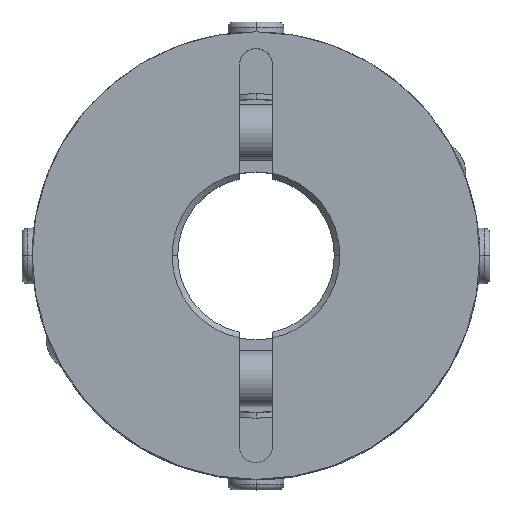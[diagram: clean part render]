
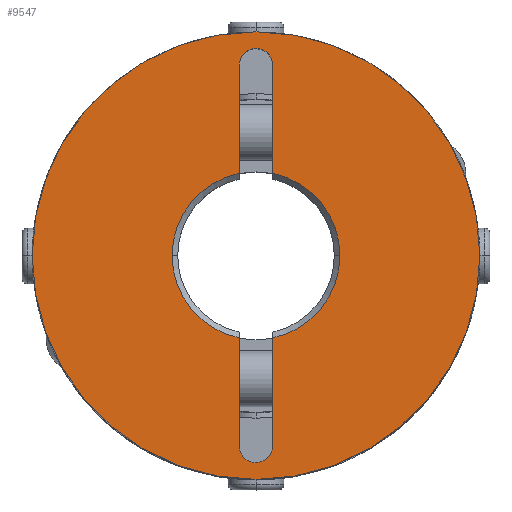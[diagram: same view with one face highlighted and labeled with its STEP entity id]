
A CAD part, top view. The second image highlights one B-rep face of the part: STEP entity #9547.
In plain terms, the highlighted planar face has unit normal (0, 0, 1).
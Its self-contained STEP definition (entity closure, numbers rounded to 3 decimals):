
#829=CARTESIAN_POINT('',(-20.0,0.,20.0));
#830=VERTEX_POINT('',#829);
#837=CARTESIAN_POINT('',(20.0,0.0,20.0));
#838=VERTEX_POINT('',#837);
#839=CARTESIAN_POINT('',(0.0,0.0,20.0));
#840=DIRECTION('',(0.0,0.0,-1.0));
#841=DIRECTION('',(1.0,0.0,0.0));
#842=AXIS2_PLACEMENT_3D('',#839,#840,#841);
#843=CIRCLE('',#842,20.0);
#844=EDGE_CURVE('',#830,#838,#843,.T.);
#1155=CARTESIAN_POINT('',(-1.061,18.061,20.0));
#1156=VERTEX_POINT('',#1155);
#1172=CARTESIAN_POINT('',(1.5,17.,20.0));
#1173=VERTEX_POINT('',#1172);
#1180=CARTESIAN_POINT('',(0.,17.,20.0));
#1181=DIRECTION('',(0.0,0.0,1.));
#1182=DIRECTION('',(0.707,0.707,0.0));
#1183=AXIS2_PLACEMENT_3D('',#1180,#1181,#1182);
#1184=CIRCLE('',#1183,1.5);
#1185=EDGE_CURVE('',#1173,#1156,#1184,.T.);
#1197=CARTESIAN_POINT('',(1.061,-18.061,20.0));
#1198=VERTEX_POINT('',#1197);
#1214=CARTESIAN_POINT('',(-1.5,-17.,20.0));
#1215=VERTEX_POINT('',#1214);
#1222=CARTESIAN_POINT('',(0.0,-17.,20.0));
#1223=DIRECTION('',(0.0,0.0,1.0));
#1224=DIRECTION('',(-0.707,-0.707,0.0));
#1225=AXIS2_PLACEMENT_3D('',#1222,#1223,#1224);
#1226=CIRCLE('',#1225,1.5);
#1227=EDGE_CURVE('',#1215,#1198,#1226,.T.);
#1237=CARTESIAN_POINT('',(-7.5,0.,20.0));
#1238=VERTEX_POINT('',#1237);
#1245=CARTESIAN_POINT('',(-1.5,-7.348,20.0));
#1246=VERTEX_POINT('',#1245);
#1247=CARTESIAN_POINT('',(0.0,0.0,20.0));
#1248=DIRECTION('',(0.0,0.0,1.0));
#1249=DIRECTION('',(-1.0,0.0,0.0));
#1250=AXIS2_PLACEMENT_3D('',#1247,#1248,#1249);
#1251=CIRCLE('',#1250,7.5);
#1252=EDGE_CURVE('',#1238,#1246,#1251,.T.);
#1276=CARTESIAN_POINT('',(7.5,0.,20.0));
#1277=VERTEX_POINT('',#1276);
#1284=CARTESIAN_POINT('',(1.5,7.348,20.0));
#1285=VERTEX_POINT('',#1284);
#1286=CARTESIAN_POINT('',(0.0,0.0,20.0));
#1287=DIRECTION('',(0.0,0.0,1.0));
#1288=DIRECTION('',(1.0,0.0,0.0));
#1289=AXIS2_PLACEMENT_3D('',#1286,#1287,#1288);
#1290=CIRCLE('',#1289,7.5);
#1291=EDGE_CURVE('',#1277,#1285,#1290,.T.);
#9352=CARTESIAN_POINT('',(-1.5,17.,20.0));
#9353=VERTEX_POINT('',#9352);
#9360=CARTESIAN_POINT('',(-1.5,7.348,20.0));
#9361=VERTEX_POINT('',#9360);
#9362=CARTESIAN_POINT('',(-1.5,7.348,20.0));
#9363=DIRECTION('',(0.0,1.0,0.0));
#9364=VECTOR('',#9363,9.652);
#9365=LINE('',#9362,#9364);
#9366=EDGE_CURVE('',#9361,#9353,#9365,.T.);
#9441=CARTESIAN_POINT('',(1.5,17.,20.0));
#9442=DIRECTION('',(0.0,-1.0,0.0));
#9443=VECTOR('',#9442,9.652);
#9444=LINE('',#9441,#9443);
#9445=EDGE_CURVE('',#1173,#1285,#9444,.T.);
#9463=CARTESIAN_POINT('',(1.5,-7.348,20.0));
#9464=VERTEX_POINT('',#9463);
#9478=CARTESIAN_POINT('',(0.0,0.0,20.0));
#9479=DIRECTION('',(0.0,0.0,1.0));
#9480=DIRECTION('',(1.0,0.0,0.0));
#9481=AXIS2_PLACEMENT_3D('',#9478,#9479,#9480);
#9482=CIRCLE('',#9481,7.5);
#9483=EDGE_CURVE('',#9464,#1277,#9482,.T.);
#9488=CARTESIAN_POINT('',(1.818,0.,20.0));
#9489=DIRECTION('',(0.0,0.0,1.0));
#9490=DIRECTION('',(1.0,0.0,0.0));
#9491=AXIS2_PLACEMENT_3D('',#9488,#9489,#9490);
#9492=PLANE('',#9491);
#9493=CARTESIAN_POINT('',(0.0,0.0,20.0));
#9494=DIRECTION('',(0.0,0.0,-1.0));
#9495=DIRECTION('',(1.0,0.0,0.0));
#9496=AXIS2_PLACEMENT_3D('',#9493,#9494,#9495);
#9497=CIRCLE('',#9496,20.0);
#9498=EDGE_CURVE('',#838,#830,#9497,.T.);
#9499=ORIENTED_EDGE('',*,*,#9498,.F.);
#9500=ORIENTED_EDGE('',*,*,#844,.F.);
#9501=EDGE_LOOP('',(#9499,#9500));
#9502=FACE_OUTER_BOUND('',#9501,.T.);
#9503=ORIENTED_EDGE('',*,*,#9483,.F.);
#9504=CARTESIAN_POINT('',(1.5,-17.,20.0));
#9505=VERTEX_POINT('',#9504);
#9506=CARTESIAN_POINT('',(1.5,-7.348,20.0));
#9507=DIRECTION('',(0.0,-1.0,0.0));
#9508=VECTOR('',#9507,9.652);
#9509=LINE('',#9506,#9508);
#9510=EDGE_CURVE('',#9464,#9505,#9509,.T.);
#9511=ORIENTED_EDGE('',*,*,#9510,.T.);
#9512=CARTESIAN_POINT('',(0.0,-17.,20.0));
#9513=DIRECTION('',(0.0,0.0,1.0));
#9514=DIRECTION('',(-0.707,-0.707,0.0));
#9515=AXIS2_PLACEMENT_3D('',#9512,#9513,#9514);
#9516=CIRCLE('',#9515,1.5);
#9517=EDGE_CURVE('',#1198,#9505,#9516,.T.);
#9518=ORIENTED_EDGE('',*,*,#9517,.F.);
#9519=ORIENTED_EDGE('',*,*,#1227,.F.);
#9520=CARTESIAN_POINT('',(-1.5,-17.,20.0));
#9521=DIRECTION('',(0.0,1.0,0.0));
#9522=VECTOR('',#9521,9.652);
#9523=LINE('',#9520,#9522);
#9524=EDGE_CURVE('',#1215,#1246,#9523,.T.);
#9525=ORIENTED_EDGE('',*,*,#9524,.T.);
#9526=ORIENTED_EDGE('',*,*,#1252,.F.);
#9527=CARTESIAN_POINT('',(0.0,0.0,20.0));
#9528=DIRECTION('',(0.0,0.0,1.0));
#9529=DIRECTION('',(-1.0,0.0,0.0));
#9530=AXIS2_PLACEMENT_3D('',#9527,#9528,#9529);
#9531=CIRCLE('',#9530,7.5);
#9532=EDGE_CURVE('',#9361,#1238,#9531,.T.);
#9533=ORIENTED_EDGE('',*,*,#9532,.F.);
#9534=ORIENTED_EDGE('',*,*,#9366,.T.);
#9535=CARTESIAN_POINT('',(0.,17.,20.0));
#9536=DIRECTION('',(0.0,0.0,1.));
#9537=DIRECTION('',(0.707,0.707,0.0));
#9538=AXIS2_PLACEMENT_3D('',#9535,#9536,#9537);
#9539=CIRCLE('',#9538,1.5);
#9540=EDGE_CURVE('',#1156,#9353,#9539,.T.);
#9541=ORIENTED_EDGE('',*,*,#9540,.F.);
#9542=ORIENTED_EDGE('',*,*,#1185,.F.);
#9543=ORIENTED_EDGE('',*,*,#9445,.T.);
#9544=ORIENTED_EDGE('',*,*,#1291,.F.);
#9545=EDGE_LOOP('',(#9503,#9511,#9518,#9519,#9525,#9526,#9533,#9534,#9541,#9542,#9543,#9544));
#9546=FACE_BOUND('',#9545,.T.);
#9547=ADVANCED_FACE('',(#9502,#9546),#9492,.T.);
